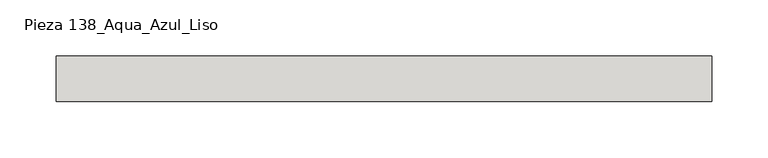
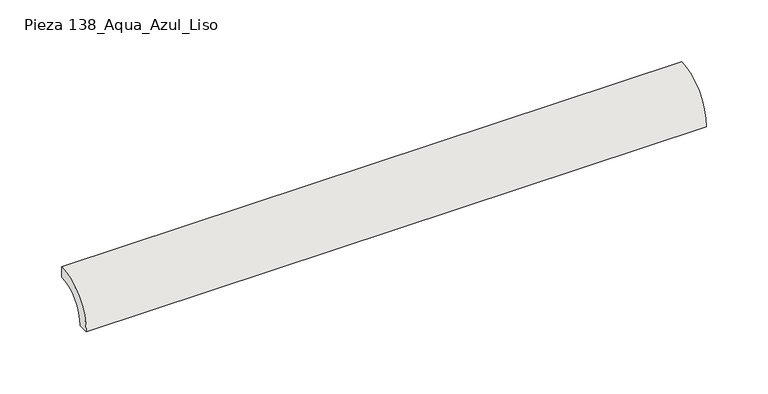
"""IFC4 building model written with IfcOpenShell, lengths in millimetres: slab geometry, ROSA GRES_138 : Pieza 138_Aqua_Azul_Liso."""

from ifc_helpers import new_model, si_unit, point, frame, frame_2d, origin, origin_2d, place, context, project, spatial, polyline, circle_curve, trimmed, segment, composite_curve, outline, extrude, source, transform, mapped, element, save


def pieza_138_aqua_azul_liso_103c38fc(model_context):
    return source(origin(), model_context, "Body", "SweptSolid", [
        extrude(outline(composite_curve([segment(polyline([(0.0, 40.0), (0.0, 30.0265886)]), True, "CONTINUOUS"), segment(trimmed(circle_curve(frame_2d((-0.0044453, 0.0044453)), 30.0221435), [point((0.0, 30.0265886))], [point((-30.0265886, 0.0))], True, "CARTESIAN"), True, "CONTINUOUS"), segment(polyline([(-30.0265886, 0.0), (-40.0, 0.0)]), True, "CONTINUOUS"), segment(trimmed(circle_curve(origin_2d(), 40.0), [point((-40.0, 0.0))], [point((0.0, 40.0))], False, "CARTESIAN"), True, "CONTINUOUS")], self_intersect=False)), frame((0.0, 0.0, 0.0), z_axis=(1.0, 0.0, 0.0), x_axis=(0.0, 1.0, 0.0)), (0.0, 0.0, 1.0), 580.0),
    ])


if __name__ == "__main__":
    model = new_model("IFC4")
    model_context = context("Model", 3, world=origin())
    ifc_project = project(units=[si_unit("LENGTHUNIT", "METRE", prefix="MILLI")], contexts=[model_context])
    site = spatial("IfcSite", under=ifc_project)
    building = spatial("IfcBuilding", under=site)
    placement = place(None, origin())
    pieza_138_aqua_azul_liso_shape = pieza_138_aqua_azul_liso_103c38fc(model_context)
    element("IfcSlab", 1, ObjectType="ROSA GRES_138 : Pieza 138_Aqua_Azul_Liso", at=placement, inside=building, context=model_context, shape_type="MappedRepresentation", body=[
        mapped(pieza_138_aqua_azul_liso_shape, transform((0.0, 0.0, 0.0), x_axis=(1.0, 0.0, 0.0), y_axis=(0.0, 1.0, 0.0), z_axis=(0.0, 0.0, 1.0))),
    ])
    save(model, "model.ifc")
